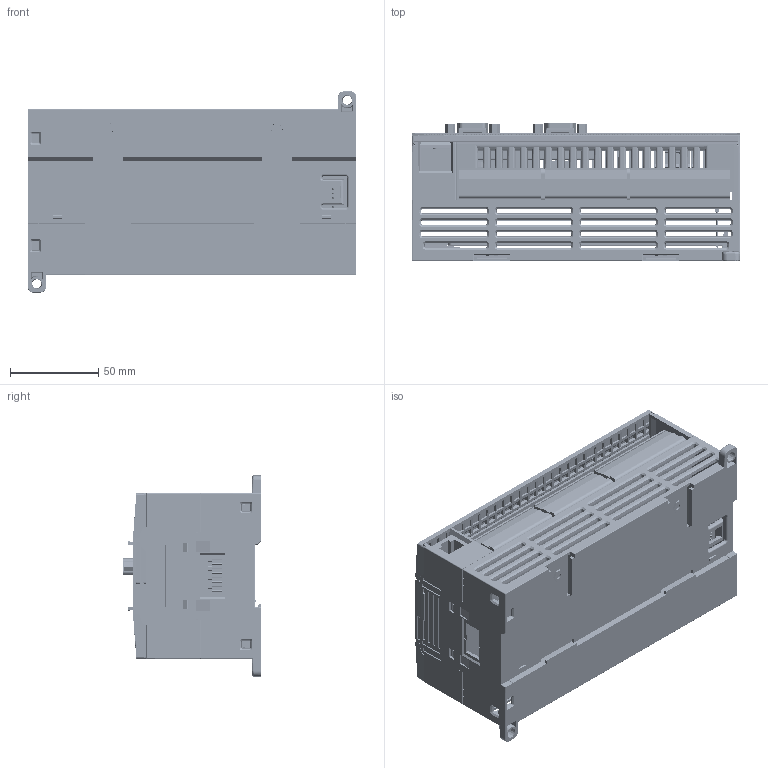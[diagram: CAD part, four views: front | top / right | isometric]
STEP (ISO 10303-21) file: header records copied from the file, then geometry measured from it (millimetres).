
FILE_DESCRIPTION (( 'STEP AP214' ), '1' );
FILE_NAME ('K608-×°Åä²úÆ·.STEP', '2022-04-15T09:08:25', ( '' ), ( '' ), 'SwSTEP 2.0', 'SolidWorks 2020', '' );
FILE_SCHEMA (( 'AUTOMOTIVE_DESIGN' ));
Length unit declared in the file: millimetre
Products named in the file (1): K608-蚾饜莉こ
Bounding box: 186.21 x 78.2 x 114 mm (x, y, z)
Volume: 306332.4 mm3; surface area: 351382.6 mm2
Topology: 117 solids, 118 shells, 19697 faces, 50354 edges, 33253 vertices
Faces by surface type: plane 15468, cylinder 3707, bspline 284, cone 234, torus 4
Entity records: 845327 total; most frequent: CARTESIAN_POINT 182369, ORIENTED_EDGE 100668, DIRECTION 73526, EDGE_CURVE 50334, VERTEX_POINT 33255, VECTOR 30454, LINE 30454, EDGE_LOOP 22761
